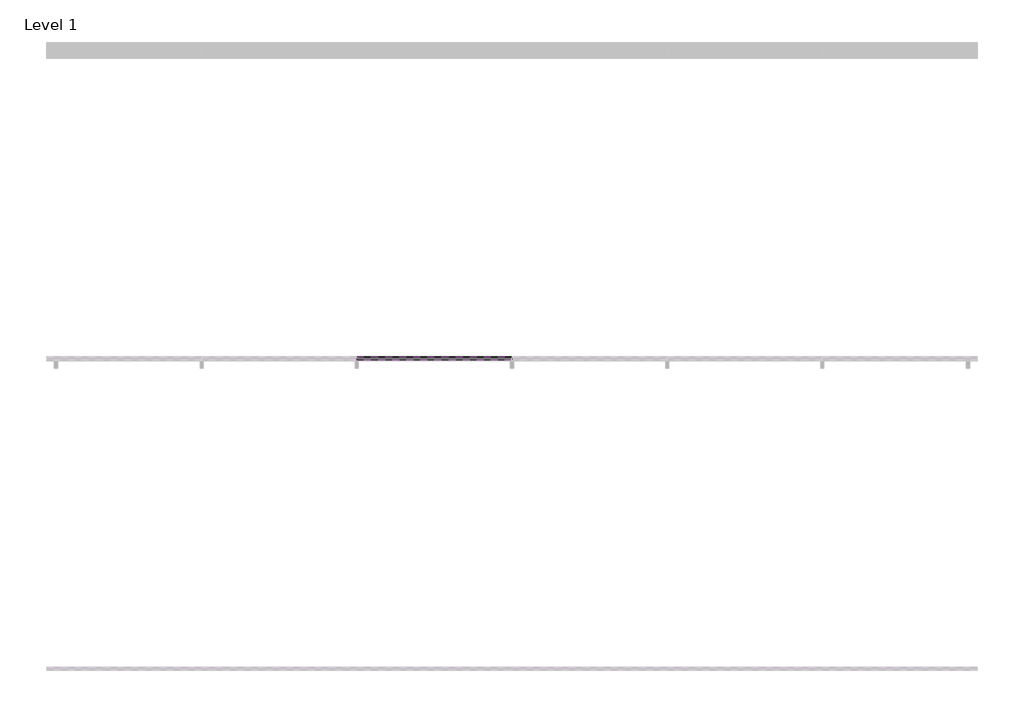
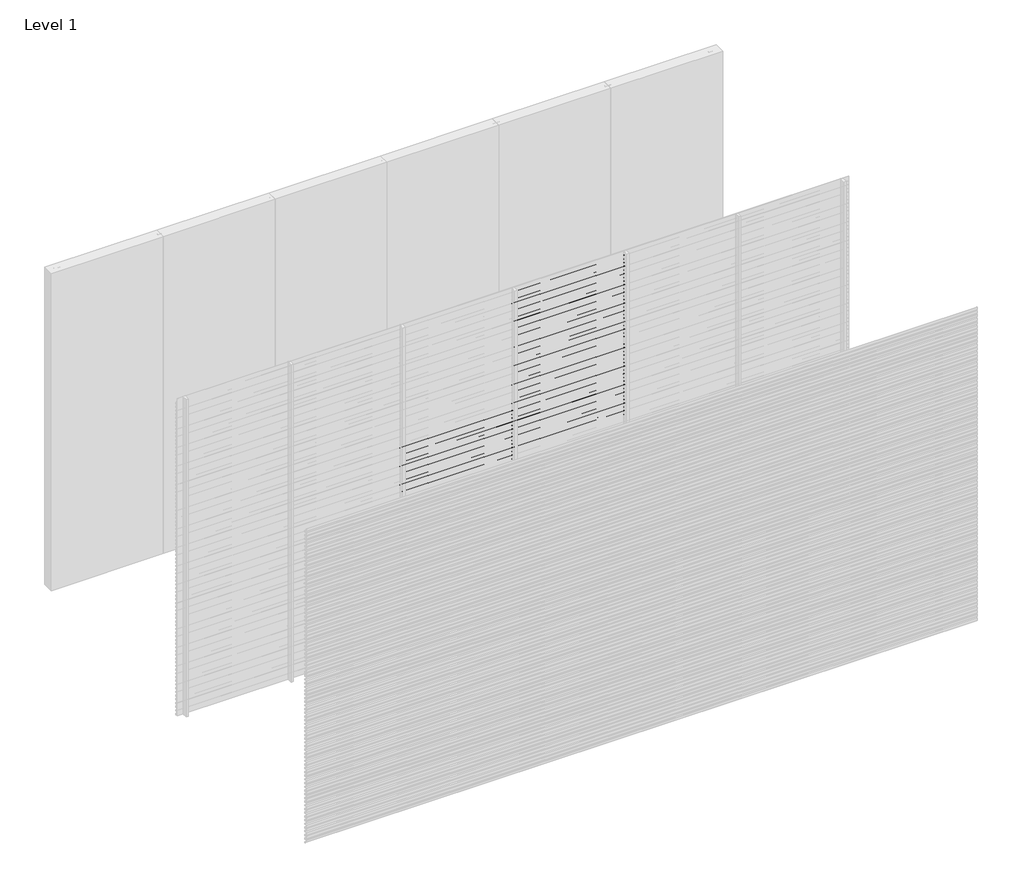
# One storey, part 17 of 25: 97 proxies.
"""IFC4 building model written with IfcOpenShell, lengths in millimetres."""

from ifc_helpers import new_model, si_unit, frame, origin, place, context, project, spatial, polyline, outline, extrude, element, save

model = new_model("IFC4")

# Units and contexts
model_context = context("Model", 3, world=origin())
ifc_project = project(units=[si_unit("LENGTHUNIT", "METRE", prefix="MILLI")], contexts=[model_context])

# Site, building, storey
site = spatial("IfcSite", under=ifc_project)
building = spatial("IfcBuilding", under=site)
storey = spatial("IfcBuildingStorey", under=building, Name="Level 1", Elevation=0.0)

# Proxies
placement = place(None, origin())
element("IfcBuildingElementProxy", 1, Name="Wall Sweeps", at=placement, inside=storey, context=model_context, shape_type="SweptSolid", body=[
    extrude(outline(polyline([(-5995.0, 1855.0), (-5995.0, 1843.942893), (-5976.0, 1828.0), (-5976.0, 1815.0), (-5997.0, 1832.6210923), (-5997.0, 1855.0), (-5995.0, 1855.0)])), frame((2000.0, 0.0, 0.0), z_axis=(1.0, 0.0, 0.0), x_axis=(0.0, 1.0, 0.0)), (0.0, 0.0, 1.0), 1000.0),
])
element("IfcBuildingElementProxy", 2, Name="Wall Sweeps", at=placement, inside=storey, context=model_context, shape_type="SweptSolid", body=[
    extrude(outline(polyline([(-5995.0, 1820.0), (-5995.0, 1808.942893), (-5976.0, 1793.0), (-5976.0, 1780.0), (-5997.0, 1797.6210923), (-5997.0, 1820.0), (-5995.0, 1820.0)])), frame((2000.0, 0.0, 0.0), z_axis=(1.0, 0.0, 0.0), x_axis=(0.0, 1.0, 0.0)), (0.0, 0.0, 1.0), 1000.0),
])
element("IfcBuildingElementProxy", 3, Name="Wall Sweeps", at=placement, inside=storey, context=model_context, shape_type="SweptSolid", body=[
    extrude(outline(polyline([(-5995.0, 1785.0), (-5995.0, 1773.942893), (-5976.0, 1758.0), (-5976.0, 1745.0), (-5997.0, 1762.6210923), (-5997.0, 1785.0), (-5995.0, 1785.0)])), frame((2000.0, 0.0, 0.0), z_axis=(1.0, 0.0, 0.0), x_axis=(0.0, 1.0, 0.0)), (0.0, 0.0, 1.0), 1000.0),
])
element("IfcBuildingElementProxy", 4, Name="Wall Sweeps", at=placement, inside=storey, context=model_context, shape_type="SweptSolid", body=[
    extrude(outline(polyline([(-5995.0, 1750.0), (-5995.0, 1738.942893), (-5976.0, 1723.0), (-5976.0, 1710.0), (-5997.0, 1727.6210923), (-5997.0, 1750.0), (-5995.0, 1750.0)])), frame((2000.0, 0.0, 0.0), z_axis=(1.0, 0.0, 0.0), x_axis=(0.0, 1.0, 0.0)), (0.0, 0.0, 1.0), 1000.0),
])
element("IfcBuildingElementProxy", 5, Name="Wall Sweeps", at=placement, inside=storey, context=model_context, shape_type="SweptSolid", body=[
    extrude(outline(polyline([(-5995.0, 1715.0), (-5995.0, 1703.942893), (-5976.0, 1688.0), (-5976.0, 1675.0), (-5997.0, 1692.6210923), (-5997.0, 1715.0), (-5995.0, 1715.0)])), frame((2000.0, 0.0, 0.0), z_axis=(1.0, 0.0, 0.0), x_axis=(0.0, 1.0, 0.0)), (0.0, 0.0, 1.0), 1000.0),
])
element("IfcBuildingElementProxy", 6, Name="Wall Sweeps", at=placement, inside=storey, context=model_context, shape_type="SweptSolid", body=[
    extrude(outline(polyline([(-5995.0, 1680.0), (-5995.0, 1668.942893), (-5976.0, 1653.0), (-5976.0, 1640.0), (-5997.0, 1657.6210923), (-5997.0, 1680.0), (-5995.0, 1680.0)])), frame((2000.0, 0.0, 0.0), z_axis=(1.0, 0.0, 0.0), x_axis=(0.0, 1.0, 0.0)), (0.0, 0.0, 1.0), 1000.0),
])
element("IfcBuildingElementProxy", 7, Name="Wall Sweeps", at=placement, inside=storey, context=model_context, shape_type="SweptSolid", body=[
    extrude(outline(polyline([(-5995.0, 1645.0), (-5995.0, 1633.942893), (-5976.0, 1618.0), (-5976.0, 1605.0), (-5997.0, 1622.6210923), (-5997.0, 1645.0), (-5995.0, 1645.0)])), frame((2000.0, 0.0, 0.0), z_axis=(1.0, 0.0, 0.0), x_axis=(0.0, 1.0, 0.0)), (0.0, 0.0, 1.0), 1000.0),
])
element("IfcBuildingElementProxy", 8, Name="Wall Sweeps", at=placement, inside=storey, context=model_context, shape_type="SweptSolid", body=[
    extrude(outline(polyline([(-5995.0, 1610.0), (-5995.0, 1598.942893), (-5976.0, 1583.0), (-5976.0, 1570.0), (-5997.0, 1587.6210923), (-5997.0, 1610.0), (-5995.0, 1610.0)])), frame((2000.0, 0.0, 0.0), z_axis=(1.0, 0.0, 0.0), x_axis=(0.0, 1.0, 0.0)), (0.0, 0.0, 1.0), 1000.0),
])
element("IfcBuildingElementProxy", 9, Name="Wall Sweeps", at=placement, inside=storey, context=model_context, shape_type="SweptSolid", body=[
    extrude(outline(polyline([(-5995.0, 1575.0), (-5995.0, 1563.942893), (-5976.0, 1548.0), (-5976.0, 1535.0), (-5997.0, 1552.6210923), (-5997.0, 1575.0), (-5995.0, 1575.0)])), frame((2000.0, 0.0, 0.0), z_axis=(1.0, 0.0, 0.0), x_axis=(0.0, 1.0, 0.0)), (0.0, 0.0, 1.0), 1000.0),
])
element("IfcBuildingElementProxy", 10, Name="Wall Sweeps", at=placement, inside=storey, context=model_context, shape_type="SweptSolid", body=[
    extrude(outline(polyline([(-5995.0, 1540.0), (-5995.0, 1528.942893), (-5976.0, 1513.0), (-5976.0, 1500.0), (-5997.0, 1517.6210923), (-5997.0, 1540.0), (-5995.0, 1540.0)])), frame((2000.0, 0.0, 0.0), z_axis=(1.0, 0.0, 0.0), x_axis=(0.0, 1.0, 0.0)), (0.0, 0.0, 1.0), 1000.0),
])
element("IfcBuildingElementProxy", 11, Name="Wall Sweeps", at=placement, inside=storey, context=model_context, shape_type="SweptSolid", body=[
    extrude(outline(polyline([(-5995.0, 1505.0), (-5995.0, 1493.942893), (-5976.0, 1478.0), (-5976.0, 1465.0), (-5997.0, 1482.6210923), (-5997.0, 1505.0), (-5995.0, 1505.0)])), frame((2000.0, 0.0, 0.0), z_axis=(1.0, 0.0, 0.0), x_axis=(0.0, 1.0, 0.0)), (0.0, 0.0, 1.0), 1000.0),
])
element("IfcBuildingElementProxy", 12, Name="Wall Sweeps", at=placement, inside=storey, context=model_context, shape_type="SweptSolid", body=[
    extrude(outline(polyline([(-5995.0, 1470.0), (-5995.0, 1458.942893), (-5976.0, 1443.0), (-5976.0, 1430.0), (-5997.0, 1447.6210923), (-5997.0, 1470.0), (-5995.0, 1470.0)])), frame((2000.0, 0.0, 0.0), z_axis=(1.0, 0.0, 0.0), x_axis=(0.0, 1.0, 0.0)), (0.0, 0.0, 1.0), 1000.0),
])
element("IfcBuildingElementProxy", 13, Name="Wall Sweeps", at=placement, inside=storey, context=model_context, shape_type="SweptSolid", body=[
    extrude(outline(polyline([(-5995.0, 1435.0), (-5995.0, 1423.942893), (-5976.0, 1408.0), (-5976.0, 1395.0), (-5997.0, 1412.6210923), (-5997.0, 1435.0), (-5995.0, 1435.0)])), frame((2000.0, 0.0, 0.0), z_axis=(1.0, 0.0, 0.0), x_axis=(0.0, 1.0, 0.0)), (0.0, 0.0, 1.0), 1000.0),
])
element("IfcBuildingElementProxy", 14, Name="Wall Sweeps", at=placement, inside=storey, context=model_context, shape_type="SweptSolid", body=[
    extrude(outline(polyline([(-5995.0, 1400.0), (-5995.0, 1388.942893), (-5976.0, 1373.0), (-5976.0, 1360.0), (-5997.0, 1377.6210923), (-5997.0, 1400.0), (-5995.0, 1400.0)])), frame((2000.0, 0.0, 0.0), z_axis=(1.0, 0.0, 0.0), x_axis=(0.0, 1.0, 0.0)), (0.0, 0.0, 1.0), 1000.0),
])
element("IfcBuildingElementProxy", 15, Name="Wall Sweeps", at=placement, inside=storey, context=model_context, shape_type="SweptSolid", body=[
    extrude(outline(polyline([(-5995.0, 1365.0), (-5995.0, 1353.942893), (-5976.0, 1338.0), (-5976.0, 1325.0), (-5997.0, 1342.6210923), (-5997.0, 1365.0), (-5995.0, 1365.0)])), frame((2000.0, 0.0, 0.0), z_axis=(1.0, 0.0, 0.0), x_axis=(0.0, 1.0, 0.0)), (0.0, 0.0, 1.0), 1000.0),
])
element("IfcBuildingElementProxy", 16, Name="Wall Sweeps", at=placement, inside=storey, context=model_context, shape_type="SweptSolid", body=[
    extrude(outline(polyline([(-5995.0, 1330.0), (-5995.0, 1318.942893), (-5976.0, 1303.0), (-5976.0, 1290.0), (-5997.0, 1307.6210923), (-5997.0, 1330.0), (-5995.0, 1330.0)])), frame((2000.0, 0.0, 0.0), z_axis=(1.0, 0.0, 0.0), x_axis=(0.0, 1.0, 0.0)), (0.0, 0.0, 1.0), 1000.0),
])
element("IfcBuildingElementProxy", 17, Name="Wall Sweeps", at=placement, inside=storey, context=model_context, shape_type="SweptSolid", body=[
    extrude(outline(polyline([(-5995.0, 1295.0), (-5995.0, 1283.942893), (-5976.0, 1268.0), (-5976.0, 1255.0), (-5997.0, 1272.6210923), (-5997.0, 1295.0), (-5995.0, 1295.0)])), frame((2000.0, 0.0, 0.0), z_axis=(1.0, 0.0, 0.0), x_axis=(0.0, 1.0, 0.0)), (0.0, 0.0, 1.0), 1000.0),
])
element("IfcBuildingElementProxy", 18, Name="Wall Sweeps", at=placement, inside=storey, context=model_context, shape_type="SweptSolid", body=[
    extrude(outline(polyline([(-5995.0, 1260.0), (-5995.0, 1248.942893), (-5976.0, 1233.0), (-5976.0, 1220.0), (-5997.0, 1237.6210923), (-5997.0, 1260.0), (-5995.0, 1260.0)])), frame((2000.0, 0.0, 0.0), z_axis=(1.0, 0.0, 0.0), x_axis=(0.0, 1.0, 0.0)), (0.0, 0.0, 1.0), 1000.0),
])
element("IfcBuildingElementProxy", 19, Name="Wall Sweeps", at=placement, inside=storey, context=model_context, shape_type="SweptSolid", body=[
    extrude(outline(polyline([(-5995.0, 1225.0), (-5995.0, 1213.942893), (-5976.0, 1198.0), (-5976.0, 1185.0), (-5997.0, 1202.6210923), (-5997.0, 1225.0), (-5995.0, 1225.0)])), frame((2000.0, 0.0, 0.0), z_axis=(1.0, 0.0, 0.0), x_axis=(0.0, 1.0, 0.0)), (0.0, 0.0, 1.0), 1000.0),
])
element("IfcBuildingElementProxy", 20, Name="Wall Sweeps", at=placement, inside=storey, context=model_context, shape_type="SweptSolid", body=[
    extrude(outline(polyline([(-5995.0, 1190.0), (-5995.0, 1178.942893), (-5976.0, 1163.0), (-5976.0, 1150.0), (-5997.0, 1167.6210923), (-5997.0, 1190.0), (-5995.0, 1190.0)])), frame((2000.0, 0.0, 0.0), z_axis=(1.0, 0.0, 0.0), x_axis=(0.0, 1.0, 0.0)), (0.0, 0.0, 1.0), 1000.0),
])
element("IfcBuildingElementProxy", 21, Name="Wall Sweeps", at=placement, inside=storey, context=model_context, shape_type="SweptSolid", body=[
    extrude(outline(polyline([(-5995.0, 1155.0), (-5995.0, 1143.942893), (-5976.0, 1128.0), (-5976.0, 1115.0), (-5997.0, 1132.6210923), (-5997.0, 1155.0), (-5995.0, 1155.0)])), frame((2000.0, 0.0, 0.0), z_axis=(1.0, 0.0, 0.0), x_axis=(0.0, 1.0, 0.0)), (0.0, 0.0, 1.0), 1000.0),
])
element("IfcBuildingElementProxy", 22, Name="Wall Sweeps", at=placement, inside=storey, context=model_context, shape_type="SweptSolid", body=[
    extrude(outline(polyline([(-5995.0, 1120.0), (-5995.0, 1108.942893), (-5976.0, 1093.0), (-5976.0, 1080.0), (-5997.0, 1097.6210923), (-5997.0, 1120.0), (-5995.0, 1120.0)])), frame((2000.0, 0.0, 0.0), z_axis=(1.0, 0.0, 0.0), x_axis=(0.0, 1.0, 0.0)), (0.0, 0.0, 1.0), 1000.0),
])
element("IfcBuildingElementProxy", 23, Name="Wall Sweeps", at=placement, inside=storey, context=model_context, shape_type="SweptSolid", body=[
    extrude(outline(polyline([(-5995.0, 1085.0), (-5995.0, 1073.942893), (-5976.0, 1058.0), (-5976.0, 1045.0), (-5997.0, 1062.6210923), (-5997.0, 1085.0), (-5995.0, 1085.0)])), frame((2000.0, 0.0, 0.0), z_axis=(1.0, 0.0, 0.0), x_axis=(0.0, 1.0, 0.0)), (0.0, 0.0, 1.0), 1000.0),
])
element("IfcBuildingElementProxy", 24, Name="Wall Sweeps", at=placement, inside=storey, context=model_context, shape_type="SweptSolid", body=[
    extrude(outline(polyline([(-5995.0, 1050.0), (-5995.0, 1038.942893), (-5976.0, 1023.0), (-5976.0, 1010.0), (-5997.0, 1027.6210923), (-5997.0, 1050.0), (-5995.0, 1050.0)])), frame((2000.0, 0.0, 0.0), z_axis=(1.0, 0.0, 0.0), x_axis=(0.0, 1.0, 0.0)), (0.0, 0.0, 1.0), 1000.0),
])
element("IfcBuildingElementProxy", 25, Name="Wall Sweeps", at=placement, inside=storey, context=model_context, shape_type="SweptSolid", body=[
    extrude(outline(polyline([(-5995.0, 1015.0), (-5995.0, 1003.942893), (-5976.0, 988.0), (-5976.0, 975.0), (-5997.0, 992.6210923), (-5997.0, 1015.0), (-5995.0, 1015.0)])), frame((2000.0, 0.0, 0.0), z_axis=(1.0, 0.0, 0.0), x_axis=(0.0, 1.0, 0.0)), (0.0, 0.0, 1.0), 1000.0),
])
element("IfcBuildingElementProxy", 26, Name="Wall Sweeps", at=placement, inside=storey, context=model_context, shape_type="SweptSolid", body=[
    extrude(outline(polyline([(-5995.0, 980.0), (-5995.0, 968.942893), (-5976.0, 953.0), (-5976.0, 940.0), (-5997.0, 957.6210923), (-5997.0, 980.0), (-5995.0, 980.0)])), frame((2000.0, 0.0, 0.0), z_axis=(1.0, 0.0, 0.0), x_axis=(0.0, 1.0, 0.0)), (0.0, 0.0, 1.0), 1000.0),
])
element("IfcBuildingElementProxy", 27, Name="Wall Sweeps", at=placement, inside=storey, context=model_context, shape_type="SweptSolid", body=[
    extrude(outline(polyline([(-5995.0, 945.0), (-5995.0, 933.942893), (-5976.0, 918.0), (-5976.0, 905.0), (-5997.0, 922.6210923), (-5997.0, 945.0), (-5995.0, 945.0)])), frame((2000.0, 0.0, 0.0), z_axis=(1.0, 0.0, 0.0), x_axis=(0.0, 1.0, 0.0)), (0.0, 0.0, 1.0), 1000.0),
])
element("IfcBuildingElementProxy", 28, Name="Wall Sweeps", at=placement, inside=storey, context=model_context, shape_type="SweptSolid", body=[
    extrude(outline(polyline([(-5995.0, 910.0), (-5995.0, 898.942893), (-5976.0, 883.0), (-5976.0, 870.0), (-5997.0, 887.6210923), (-5997.0, 910.0), (-5995.0, 910.0)])), frame((2000.0, 0.0, 0.0), z_axis=(1.0, 0.0, 0.0), x_axis=(0.0, 1.0, 0.0)), (0.0, 0.0, 1.0), 1000.0),
])
element("IfcBuildingElementProxy", 29, Name="Wall Sweeps", at=placement, inside=storey, context=model_context, shape_type="SweptSolid", body=[
    extrude(outline(polyline([(-5995.0, 875.0), (-5995.0, 863.942893), (-5976.0, 848.0), (-5976.0, 835.0), (-5997.0, 852.6210923), (-5997.0, 875.0), (-5995.0, 875.0)])), frame((2000.0, 0.0, 0.0), z_axis=(1.0, 0.0, 0.0), x_axis=(0.0, 1.0, 0.0)), (0.0, 0.0, 1.0), 1000.0),
])
element("IfcBuildingElementProxy", 30, Name="Wall Sweeps", at=placement, inside=storey, context=model_context, shape_type="SweptSolid", body=[
    extrude(outline(polyline([(-5995.0, 840.0), (-5995.0, 828.942893), (-5976.0, 813.0), (-5976.0, 800.0), (-5997.0, 817.6210923), (-5997.0, 840.0), (-5995.0, 840.0)])), frame((2000.0, 0.0, 0.0), z_axis=(1.0, 0.0, 0.0), x_axis=(0.0, 1.0, 0.0)), (0.0, 0.0, 1.0), 1000.0),
])
element("IfcBuildingElementProxy", 31, Name="Wall Sweeps", at=placement, inside=storey, context=model_context, shape_type="SweptSolid", body=[
    extrude(outline(polyline([(-5995.0, 805.0), (-5995.0, 793.942893), (-5976.0, 778.0), (-5976.0, 765.0), (-5997.0, 782.6210923), (-5997.0, 805.0), (-5995.0, 805.0)])), frame((2000.0, 0.0, 0.0), z_axis=(1.0, 0.0, 0.0), x_axis=(0.0, 1.0, 0.0)), (0.0, 0.0, 1.0), 1000.0),
])
element("IfcBuildingElementProxy", 32, Name="Wall Sweeps", at=placement, inside=storey, context=model_context, shape_type="SweptSolid", body=[
    extrude(outline(polyline([(-5995.0, 770.0), (-5995.0, 758.942893), (-5976.0, 743.0), (-5976.0, 730.0), (-5997.0, 747.6210923), (-5997.0, 770.0), (-5995.0, 770.0)])), frame((2000.0, 0.0, 0.0), z_axis=(1.0, 0.0, 0.0), x_axis=(0.0, 1.0, 0.0)), (0.0, 0.0, 1.0), 1000.0),
])
element("IfcBuildingElementProxy", 33, Name="Wall Sweeps", at=placement, inside=storey, context=model_context, shape_type="SweptSolid", body=[
    extrude(outline(polyline([(-5995.0, 735.0), (-5995.0, 723.942893), (-5976.0, 708.0), (-5976.0, 695.0), (-5997.0, 712.6210923), (-5997.0, 735.0), (-5995.0, 735.0)])), frame((2000.0, 0.0, 0.0), z_axis=(1.0, 0.0, 0.0), x_axis=(0.0, 1.0, 0.0)), (0.0, 0.0, 1.0), 1000.0),
])
element("IfcBuildingElementProxy", 34, Name="Wall Sweeps", at=placement, inside=storey, context=model_context, shape_type="SweptSolid", body=[
    extrude(outline(polyline([(-5995.0, 700.0), (-5995.0, 688.942893), (-5976.0, 673.0), (-5976.0, 660.0), (-5997.0, 677.6210923), (-5997.0, 700.0), (-5995.0, 700.0)])), frame((2000.0, 0.0, 0.0), z_axis=(1.0, 0.0, 0.0), x_axis=(0.0, 1.0, 0.0)), (0.0, 0.0, 1.0), 1000.0),
])
element("IfcBuildingElementProxy", 35, Name="Wall Sweeps", at=placement, inside=storey, context=model_context, shape_type="SweptSolid", body=[
    extrude(outline(polyline([(-5995.0, 665.0), (-5995.0, 653.942893), (-5976.0, 638.0), (-5976.0, 625.0), (-5997.0, 642.6210923), (-5997.0, 665.0), (-5995.0, 665.0)])), frame((2000.0, 0.0, 0.0), z_axis=(1.0, 0.0, 0.0), x_axis=(0.0, 1.0, 0.0)), (0.0, 0.0, 1.0), 1000.0),
])
element("IfcBuildingElementProxy", 36, Name="Wall Sweeps", at=placement, inside=storey, context=model_context, shape_type="SweptSolid", body=[
    extrude(outline(polyline([(-5995.0, 630.0), (-5995.0, 618.942893), (-5976.0, 603.0), (-5976.0, 590.0), (-5997.0, 607.6210923), (-5997.0, 630.0), (-5995.0, 630.0)])), frame((2000.0, 0.0, 0.0), z_axis=(1.0, 0.0, 0.0), x_axis=(0.0, 1.0, 0.0)), (0.0, 0.0, 1.0), 1000.0),
])
element("IfcBuildingElementProxy", 37, Name="Wall Sweeps", at=placement, inside=storey, context=model_context, shape_type="SweptSolid", body=[
    extrude(outline(polyline([(-5995.0, 595.0), (-5995.0, 583.942893), (-5976.0, 568.0), (-5976.0, 555.0), (-5997.0, 572.6210923), (-5997.0, 595.0), (-5995.0, 595.0)])), frame((2000.0, 0.0, 0.0), z_axis=(1.0, 0.0, 0.0), x_axis=(0.0, 1.0, 0.0)), (0.0, 0.0, 1.0), 1000.0),
])
element("IfcBuildingElementProxy", 38, Name="Wall Sweeps", at=placement, inside=storey, context=model_context, shape_type="SweptSolid", body=[
    extrude(outline(polyline([(-5995.0, 560.0), (-5995.0, 548.942893), (-5976.0, 533.0), (-5976.0, 520.0), (-5997.0, 537.6210923), (-5997.0, 560.0), (-5995.0, 560.0)])), frame((2000.0, 0.0, 0.0), z_axis=(1.0, 0.0, 0.0), x_axis=(0.0, 1.0, 0.0)), (0.0, 0.0, 1.0), 1000.0),
])
element("IfcBuildingElementProxy", 39, Name="Wall Sweeps", at=placement, inside=storey, context=model_context, shape_type="SweptSolid", body=[
    extrude(outline(polyline([(-5995.0, 525.0), (-5995.0, 513.942893), (-5976.0, 498.0), (-5976.0, 485.0), (-5997.0, 502.6210923), (-5997.0, 525.0), (-5995.0, 525.0)])), frame((2000.0, 0.0, 0.0), z_axis=(1.0, 0.0, 0.0), x_axis=(0.0, 1.0, 0.0)), (0.0, 0.0, 1.0), 1000.0),
])
element("IfcBuildingElementProxy", 40, Name="Wall Sweeps", at=placement, inside=storey, context=model_context, shape_type="SweptSolid", body=[
    extrude(outline(polyline([(-5995.0, 490.0), (-5995.0, 478.942893), (-5976.0, 463.0), (-5976.0, 450.0), (-5997.0, 467.6210923), (-5997.0, 490.0), (-5995.0, 490.0)])), frame((2000.0, 0.0, 0.0), z_axis=(1.0, 0.0, 0.0), x_axis=(0.0, 1.0, 0.0)), (0.0, 0.0, 1.0), 1000.0),
])
element("IfcBuildingElementProxy", 41, Name="Wall Sweeps", at=placement, inside=storey, context=model_context, shape_type="SweptSolid", body=[
    extrude(outline(polyline([(-5995.0, 455.0), (-5995.0, 443.942893), (-5976.0, 428.0), (-5976.0, 415.0), (-5997.0, 432.6210923), (-5997.0, 455.0), (-5995.0, 455.0)])), frame((2000.0, 0.0, 0.0), z_axis=(1.0, 0.0, 0.0), x_axis=(0.0, 1.0, 0.0)), (0.0, 0.0, 1.0), 1000.0),
])
element("IfcBuildingElementProxy", 42, Name="Wall Sweeps", at=placement, inside=storey, context=model_context, shape_type="SweptSolid", body=[
    extrude(outline(polyline([(-5995.0, 420.0), (-5995.0, 408.942893), (-5976.0, 393.0), (-5976.0, 380.0), (-5997.0, 397.6210923), (-5997.0, 420.0), (-5995.0, 420.0)])), frame((2000.0, 0.0, 0.0), z_axis=(1.0, 0.0, 0.0), x_axis=(0.0, 1.0, 0.0)), (0.0, 0.0, 1.0), 1000.0),
])
element("IfcBuildingElementProxy", 43, Name="Wall Sweeps", at=placement, inside=storey, context=model_context, shape_type="SweptSolid", body=[
    extrude(outline(polyline([(-5995.0, 385.0), (-5995.0, 373.942893), (-5976.0, 358.0), (-5976.0, 345.0), (-5997.0, 362.6210923), (-5997.0, 385.0), (-5995.0, 385.0)])), frame((2000.0, 0.0, 0.0), z_axis=(1.0, 0.0, 0.0), x_axis=(0.0, 1.0, 0.0)), (0.0, 0.0, 1.0), 1000.0),
])
element("IfcBuildingElementProxy", 44, Name="Wall Sweeps", at=placement, inside=storey, context=model_context, shape_type="SweptSolid", body=[
    extrude(outline(polyline([(-5995.0, 350.0), (-5995.0, 338.942893), (-5976.0, 323.0), (-5976.0, 310.0), (-5997.0, 327.6210923), (-5997.0, 350.0), (-5995.0, 350.0)])), frame((2000.0, 0.0, 0.0), z_axis=(1.0, 0.0, 0.0), x_axis=(0.0, 1.0, 0.0)), (0.0, 0.0, 1.0), 1000.0),
])
element("IfcBuildingElementProxy", 45, Name="Wall Sweeps", at=placement, inside=storey, context=model_context, shape_type="SweptSolid", body=[
    extrude(outline(polyline([(-5995.0, 315.0), (-5995.0, 303.942893), (-5976.0, 288.0), (-5976.0, 275.0), (-5997.0, 292.6210923), (-5997.0, 315.0), (-5995.0, 315.0)])), frame((2000.0, 0.0, 0.0), z_axis=(1.0, 0.0, 0.0), x_axis=(0.0, 1.0, 0.0)), (0.0, 0.0, 1.0), 1000.0),
])
element("IfcBuildingElementProxy", 46, Name="Wall Sweeps", at=placement, inside=storey, context=model_context, shape_type="SweptSolid", body=[
    extrude(outline(polyline([(-5995.0, 280.0), (-5995.0, 268.942893), (-5976.0, 253.0), (-5976.0, 240.0), (-5997.0, 257.6210923), (-5997.0, 280.0), (-5995.0, 280.0)])), frame((2000.0, 0.0, 0.0), z_axis=(1.0, 0.0, 0.0), x_axis=(0.0, 1.0, 0.0)), (0.0, 0.0, 1.0), 1000.0),
])
element("IfcBuildingElementProxy", 47, Name="Wall Sweeps", at=placement, inside=storey, context=model_context, shape_type="SweptSolid", body=[
    extrude(outline(polyline([(-5995.0, 245.0), (-5995.0, 233.942893), (-5976.0, 218.0), (-5976.0, 205.0), (-5997.0, 222.6210923), (-5997.0, 245.0), (-5995.0, 245.0)])), frame((2000.0, 0.0, 0.0), z_axis=(1.0, 0.0, 0.0), x_axis=(0.0, 1.0, 0.0)), (0.0, 0.0, 1.0), 1000.0),
])
element("IfcBuildingElementProxy", 48, Name="Wall Sweeps", at=placement, inside=storey, context=model_context, shape_type="SweptSolid", body=[
    extrude(outline(polyline([(-5995.0, 210.0), (-5995.0, 198.942893), (-5976.0, 183.0), (-5976.0, 170.0), (-5997.0, 187.6210923), (-5997.0, 210.0), (-5995.0, 210.0)])), frame((2000.0, 0.0, 0.0), z_axis=(1.0, 0.0, 0.0), x_axis=(0.0, 1.0, 0.0)), (0.0, 0.0, 1.0), 1000.0),
])
element("IfcBuildingElementProxy", 49, Name="Wall Sweeps", at=placement, inside=storey, context=model_context, shape_type="SweptSolid", body=[
    extrude(outline(polyline([(-5995.0, 175.0), (-5995.0, 163.942893), (-5976.0, 148.0), (-5976.0, 135.0), (-5997.0, 152.6210923), (-5997.0, 175.0), (-5995.0, 175.0)])), frame((2000.0, 0.0, 0.0), z_axis=(1.0, 0.0, 0.0), x_axis=(0.0, 1.0, 0.0)), (0.0, 0.0, 1.0), 1000.0),
])
element("IfcBuildingElementProxy", 50, Name="Wall Sweeps", at=placement, inside=storey, context=model_context, shape_type="SweptSolid", body=[
    extrude(outline(polyline([(-5995.0, 140.0), (-5995.0, 128.942893), (-5976.0, 113.0), (-5976.0, 100.0), (-5997.0, 117.6210923), (-5997.0, 140.0), (-5995.0, 140.0)])), frame((2000.0, 0.0, 0.0), z_axis=(1.0, 0.0, 0.0), x_axis=(0.0, 1.0, 0.0)), (0.0, 0.0, 1.0), 1000.0),
])
element("IfcBuildingElementProxy", 51, Name="Wall Sweeps", at=placement, inside=storey, context=model_context, shape_type="SweptSolid", body=[
    extrude(outline(polyline([(-5995.0, 105.0), (-5995.0, 93.942893), (-5976.0, 78.0), (-5976.0, 65.0), (-5997.0, 82.6210923), (-5997.0, 105.0), (-5995.0, 105.0)])), frame((2000.0, 0.0, 0.0), z_axis=(1.0, 0.0, 0.0), x_axis=(0.0, 1.0, 0.0)), (0.0, 0.0, 1.0), 1000.0),
])
element("IfcBuildingElementProxy", 52, Name="Wall Sweeps", at=placement, inside=storey, context=model_context, shape_type="SweptSolid", body=[
    extrude(outline(polyline([(-5995.0, 70.0), (-5995.0, 58.942893), (-5976.0, 43.0), (-5976.0, 30.0), (-5997.0, 47.6210923), (-5997.0, 70.0), (-5995.0, 70.0)])), frame((2000.0, 0.0, 0.0), z_axis=(1.0, 0.0, 0.0), x_axis=(0.0, 1.0, 0.0)), (0.0, 0.0, 1.0), 1000.0),
])
element("IfcBuildingElementProxy", 53, Name="Wall Sweeps", at=placement, inside=storey, context=model_context, shape_type="SweptSolid", body=[
    extrude(outline(polyline([(-5995.0, 35.0), (-5995.0, 23.942893), (-5976.0, 8.0), (-5976.0, -5.0), (-5997.0, 12.6210923), (-5997.0, 35.0), (-5995.0, 35.0)])), frame((2000.0, 0.0, 0.0), z_axis=(1.0, 0.0, 0.0), x_axis=(0.0, 1.0, 0.0)), (0.0, 0.0, 1.0), 1000.0),
])
element("IfcBuildingElementProxy", 54, Name="Wall Sweeps", at=placement, inside=storey, context=model_context, shape_type="SweptSolid", body=[
    extrude(outline(polyline([(-5995.0, 2975.0), (-5995.0, 2963.942893), (-5976.0, 2948.0), (-5976.0, 2935.0), (-5997.0, 2952.6210923), (-5997.0, 2975.0), (-5995.0, 2975.0)])), frame((3000.0, 0.0, 0.0), z_axis=(1.0, 0.0, 0.0), x_axis=(0.0, 1.0, 0.0)), (0.0, 0.0, 1.0), 1000.0),
])
element("IfcBuildingElementProxy", 55, Name="Wall Sweeps", at=placement, inside=storey, context=model_context, shape_type="SweptSolid", body=[
    extrude(outline(polyline([(-5995.0, 2940.0), (-5995.0, 2928.942893), (-5976.0, 2913.0), (-5976.0, 2900.0), (-5997.0, 2917.6210923), (-5997.0, 2940.0), (-5995.0, 2940.0)])), frame((3000.0, 0.0, 0.0), z_axis=(1.0, 0.0, 0.0), x_axis=(0.0, 1.0, 0.0)), (0.0, 0.0, 1.0), 1000.0),
])
element("IfcBuildingElementProxy", 56, Name="Wall Sweeps", at=placement, inside=storey, context=model_context, shape_type="SweptSolid", body=[
    extrude(outline(polyline([(-5995.0, 2905.0), (-5995.0, 2893.942893), (-5976.0, 2878.0), (-5976.0, 2865.0), (-5997.0, 2882.6210923), (-5997.0, 2905.0), (-5995.0, 2905.0)])), frame((3000.0, 0.0, 0.0), z_axis=(1.0, 0.0, 0.0), x_axis=(0.0, 1.0, 0.0)), (0.0, 0.0, 1.0), 1000.0),
])
element("IfcBuildingElementProxy", 57, Name="Wall Sweeps", at=placement, inside=storey, context=model_context, shape_type="SweptSolid", body=[
    extrude(outline(polyline([(-5995.0, 2870.0), (-5995.0, 2858.942893), (-5976.0, 2843.0), (-5976.0, 2830.0), (-5997.0, 2847.6210923), (-5997.0, 2870.0), (-5995.0, 2870.0)])), frame((3000.0, 0.0, 0.0), z_axis=(1.0, 0.0, 0.0), x_axis=(0.0, 1.0, 0.0)), (0.0, 0.0, 1.0), 1000.0),
])
element("IfcBuildingElementProxy", 58, Name="Wall Sweeps", at=placement, inside=storey, context=model_context, shape_type="SweptSolid", body=[
    extrude(outline(polyline([(-5995.0, 2835.0), (-5995.0, 2823.942893), (-5976.0, 2808.0), (-5976.0, 2795.0), (-5997.0, 2812.6210923), (-5997.0, 2835.0), (-5995.0, 2835.0)])), frame((3000.0, 0.0, 0.0), z_axis=(1.0, 0.0, 0.0), x_axis=(0.0, 1.0, 0.0)), (0.0, 0.0, 1.0), 1000.0),
])
element("IfcBuildingElementProxy", 59, Name="Wall Sweeps", at=placement, inside=storey, context=model_context, shape_type="SweptSolid", body=[
    extrude(outline(polyline([(-5995.0, 2800.0), (-5995.0, 2788.942893), (-5976.0, 2773.0), (-5976.0, 2760.0), (-5997.0, 2777.6210923), (-5997.0, 2800.0), (-5995.0, 2800.0)])), frame((3000.0, 0.0, 0.0), z_axis=(1.0, 0.0, 0.0), x_axis=(0.0, 1.0, 0.0)), (0.0, 0.0, 1.0), 1000.0),
])
element("IfcBuildingElementProxy", 60, Name="Wall Sweeps", at=placement, inside=storey, context=model_context, shape_type="SweptSolid", body=[
    extrude(outline(polyline([(-5995.0, 2765.0), (-5995.0, 2753.942893), (-5976.0, 2738.0), (-5976.0, 2725.0), (-5997.0, 2742.6210923), (-5997.0, 2765.0), (-5995.0, 2765.0)])), frame((3000.0, 0.0, 0.0), z_axis=(1.0, 0.0, 0.0), x_axis=(0.0, 1.0, 0.0)), (0.0, 0.0, 1.0), 1000.0),
])
element("IfcBuildingElementProxy", 61, Name="Wall Sweeps", at=placement, inside=storey, context=model_context, shape_type="SweptSolid", body=[
    extrude(outline(polyline([(-5995.0, 2730.0), (-5995.0, 2718.942893), (-5976.0, 2703.0), (-5976.0, 2690.0), (-5997.0, 2707.6210923), (-5997.0, 2730.0), (-5995.0, 2730.0)])), frame((3000.0, 0.0, 0.0), z_axis=(1.0, 0.0, 0.0), x_axis=(0.0, 1.0, 0.0)), (0.0, 0.0, 1.0), 1000.0),
])
element("IfcBuildingElementProxy", 62, Name="Wall Sweeps", at=placement, inside=storey, context=model_context, shape_type="SweptSolid", body=[
    extrude(outline(polyline([(-5995.0, 2695.0), (-5995.0, 2683.942893), (-5976.0, 2668.0), (-5976.0, 2655.0), (-5997.0, 2672.6210923), (-5997.0, 2695.0), (-5995.0, 2695.0)])), frame((3000.0, 0.0, 0.0), z_axis=(1.0, 0.0, 0.0), x_axis=(0.0, 1.0, 0.0)), (0.0, 0.0, 1.0), 1000.0),
])
element("IfcBuildingElementProxy", 63, Name="Wall Sweeps", at=placement, inside=storey, context=model_context, shape_type="SweptSolid", body=[
    extrude(outline(polyline([(-5995.0, 2660.0), (-5995.0, 2648.942893), (-5976.0, 2633.0), (-5976.0, 2620.0), (-5997.0, 2637.6210923), (-5997.0, 2660.0), (-5995.0, 2660.0)])), frame((3000.0, 0.0, 0.0), z_axis=(1.0, 0.0, 0.0), x_axis=(0.0, 1.0, 0.0)), (0.0, 0.0, 1.0), 1000.0),
])
element("IfcBuildingElementProxy", 64, Name="Wall Sweeps", at=placement, inside=storey, context=model_context, shape_type="SweptSolid", body=[
    extrude(outline(polyline([(-5995.0, 2625.0), (-5995.0, 2613.942893), (-5976.0, 2598.0), (-5976.0, 2585.0), (-5997.0, 2602.6210923), (-5997.0, 2625.0), (-5995.0, 2625.0)])), frame((3000.0, 0.0, 0.0), z_axis=(1.0, 0.0, 0.0), x_axis=(0.0, 1.0, 0.0)), (0.0, 0.0, 1.0), 1000.0),
])
element("IfcBuildingElementProxy", 65, Name="Wall Sweeps", at=placement, inside=storey, context=model_context, shape_type="SweptSolid", body=[
    extrude(outline(polyline([(-5995.0, 2590.0), (-5995.0, 2578.942893), (-5976.0, 2563.0), (-5976.0, 2550.0), (-5997.0, 2567.6210923), (-5997.0, 2590.0), (-5995.0, 2590.0)])), frame((3000.0, 0.0, 0.0), z_axis=(1.0, 0.0, 0.0), x_axis=(0.0, 1.0, 0.0)), (0.0, 0.0, 1.0), 1000.0),
])
element("IfcBuildingElementProxy", 66, Name="Wall Sweeps", at=placement, inside=storey, context=model_context, shape_type="SweptSolid", body=[
    extrude(outline(polyline([(-5995.0, 2555.0), (-5995.0, 2543.942893), (-5976.0, 2528.0), (-5976.0, 2515.0), (-5997.0, 2532.6210923), (-5997.0, 2555.0), (-5995.0, 2555.0)])), frame((3000.0, 0.0, 0.0), z_axis=(1.0, 0.0, 0.0), x_axis=(0.0, 1.0, 0.0)), (0.0, 0.0, 1.0), 1000.0),
])
element("IfcBuildingElementProxy", 67, Name="Wall Sweeps", at=placement, inside=storey, context=model_context, shape_type="SweptSolid", body=[
    extrude(outline(polyline([(-5995.0, 2520.0), (-5995.0, 2508.942893), (-5976.0, 2493.0), (-5976.0, 2480.0), (-5997.0, 2497.6210923), (-5997.0, 2520.0), (-5995.0, 2520.0)])), frame((3000.0, 0.0, 0.0), z_axis=(1.0, 0.0, 0.0), x_axis=(0.0, 1.0, 0.0)), (0.0, 0.0, 1.0), 1000.0),
])
element("IfcBuildingElementProxy", 68, Name="Wall Sweeps", at=placement, inside=storey, context=model_context, shape_type="SweptSolid", body=[
    extrude(outline(polyline([(-5995.0, 2485.0), (-5995.0, 2473.942893), (-5976.0, 2458.0), (-5976.0, 2445.0), (-5997.0, 2462.6210923), (-5997.0, 2485.0), (-5995.0, 2485.0)])), frame((3000.0, 0.0, 0.0), z_axis=(1.0, 0.0, 0.0), x_axis=(0.0, 1.0, 0.0)), (0.0, 0.0, 1.0), 1000.0),
])
element("IfcBuildingElementProxy", 69, Name="Wall Sweeps", at=placement, inside=storey, context=model_context, shape_type="SweptSolid", body=[
    extrude(outline(polyline([(-5995.0, 2450.0), (-5995.0, 2438.942893), (-5976.0, 2423.0), (-5976.0, 2410.0), (-5997.0, 2427.6210923), (-5997.0, 2450.0), (-5995.0, 2450.0)])), frame((3000.0, 0.0, 0.0), z_axis=(1.0, 0.0, 0.0), x_axis=(0.0, 1.0, 0.0)), (0.0, 0.0, 1.0), 1000.0),
])
element("IfcBuildingElementProxy", 70, Name="Wall Sweeps", at=placement, inside=storey, context=model_context, shape_type="SweptSolid", body=[
    extrude(outline(polyline([(-5995.0, 2415.0), (-5995.0, 2403.942893), (-5976.0, 2388.0), (-5976.0, 2375.0), (-5997.0, 2392.6210923), (-5997.0, 2415.0), (-5995.0, 2415.0)])), frame((3000.0, 0.0, 0.0), z_axis=(1.0, 0.0, 0.0), x_axis=(0.0, 1.0, 0.0)), (0.0, 0.0, 1.0), 1000.0),
])
element("IfcBuildingElementProxy", 71, Name="Wall Sweeps", at=placement, inside=storey, context=model_context, shape_type="SweptSolid", body=[
    extrude(outline(polyline([(-5995.0, 2380.0), (-5995.0, 2368.942893), (-5976.0, 2353.0), (-5976.0, 2340.0), (-5997.0, 2357.6210923), (-5997.0, 2380.0), (-5995.0, 2380.0)])), frame((3000.0, 0.0, 0.0), z_axis=(1.0, 0.0, 0.0), x_axis=(0.0, 1.0, 0.0)), (0.0, 0.0, 1.0), 1000.0),
])
element("IfcBuildingElementProxy", 72, Name="Wall Sweeps", at=placement, inside=storey, context=model_context, shape_type="SweptSolid", body=[
    extrude(outline(polyline([(-5995.0, 2345.0), (-5995.0, 2333.942893), (-5976.0, 2318.0), (-5976.0, 2305.0), (-5997.0, 2322.6210923), (-5997.0, 2345.0), (-5995.0, 2345.0)])), frame((3000.0, 0.0, 0.0), z_axis=(1.0, 0.0, 0.0), x_axis=(0.0, 1.0, 0.0)), (0.0, 0.0, 1.0), 1000.0),
])
element("IfcBuildingElementProxy", 73, Name="Wall Sweeps", at=placement, inside=storey, context=model_context, shape_type="SweptSolid", body=[
    extrude(outline(polyline([(-5995.0, 2310.0), (-5995.0, 2298.942893), (-5976.0, 2283.0), (-5976.0, 2270.0), (-5997.0, 2287.6210923), (-5997.0, 2310.0), (-5995.0, 2310.0)])), frame((3000.0, 0.0, 0.0), z_axis=(1.0, 0.0, 0.0), x_axis=(0.0, 1.0, 0.0)), (0.0, 0.0, 1.0), 1000.0),
])
element("IfcBuildingElementProxy", 74, Name="Wall Sweeps", at=placement, inside=storey, context=model_context, shape_type="SweptSolid", body=[
    extrude(outline(polyline([(-5995.0, 2275.0), (-5995.0, 2263.942893), (-5976.0, 2248.0), (-5976.0, 2235.0), (-5997.0, 2252.6210923), (-5997.0, 2275.0), (-5995.0, 2275.0)])), frame((3000.0, 0.0, 0.0), z_axis=(1.0, 0.0, 0.0), x_axis=(0.0, 1.0, 0.0)), (0.0, 0.0, 1.0), 1000.0),
])
element("IfcBuildingElementProxy", 75, Name="Wall Sweeps", at=placement, inside=storey, context=model_context, shape_type="SweptSolid", body=[
    extrude(outline(polyline([(-5995.0, 2240.0), (-5995.0, 2228.942893), (-5976.0, 2213.0), (-5976.0, 2200.0), (-5997.0, 2217.6210923), (-5997.0, 2240.0), (-5995.0, 2240.0)])), frame((3000.0, 0.0, 0.0), z_axis=(1.0, 0.0, 0.0), x_axis=(0.0, 1.0, 0.0)), (0.0, 0.0, 1.0), 1000.0),
])
element("IfcBuildingElementProxy", 76, Name="Wall Sweeps", at=placement, inside=storey, context=model_context, shape_type="SweptSolid", body=[
    extrude(outline(polyline([(-5995.0, 2205.0), (-5995.0, 2193.942893), (-5976.0, 2178.0), (-5976.0, 2165.0), (-5997.0, 2182.6210923), (-5997.0, 2205.0), (-5995.0, 2205.0)])), frame((3000.0, 0.0, 0.0), z_axis=(1.0, 0.0, 0.0), x_axis=(0.0, 1.0, 0.0)), (0.0, 0.0, 1.0), 1000.0),
])
element("IfcBuildingElementProxy", 77, Name="Wall Sweeps", at=placement, inside=storey, context=model_context, shape_type="SweptSolid", body=[
    extrude(outline(polyline([(-5995.0, 2170.0), (-5995.0, 2158.942893), (-5976.0, 2143.0), (-5976.0, 2130.0), (-5997.0, 2147.6210923), (-5997.0, 2170.0), (-5995.0, 2170.0)])), frame((3000.0, 0.0, 0.0), z_axis=(1.0, 0.0, 0.0), x_axis=(0.0, 1.0, 0.0)), (0.0, 0.0, 1.0), 1000.0),
])
element("IfcBuildingElementProxy", 78, Name="Wall Sweeps", at=placement, inside=storey, context=model_context, shape_type="SweptSolid", body=[
    extrude(outline(polyline([(-5995.0, 2135.0), (-5995.0, 2123.942893), (-5976.0, 2108.0), (-5976.0, 2095.0), (-5997.0, 2112.6210923), (-5997.0, 2135.0), (-5995.0, 2135.0)])), frame((3000.0, 0.0, 0.0), z_axis=(1.0, 0.0, 0.0), x_axis=(0.0, 1.0, 0.0)), (0.0, 0.0, 1.0), 1000.0),
])
element("IfcBuildingElementProxy", 79, Name="Wall Sweeps", at=placement, inside=storey, context=model_context, shape_type="SweptSolid", body=[
    extrude(outline(polyline([(-5995.0, 2100.0), (-5995.0, 2088.942893), (-5976.0, 2073.0), (-5976.0, 2060.0), (-5997.0, 2077.6210923), (-5997.0, 2100.0), (-5995.0, 2100.0)])), frame((3000.0, 0.0, 0.0), z_axis=(1.0, 0.0, 0.0), x_axis=(0.0, 1.0, 0.0)), (0.0, 0.0, 1.0), 1000.0),
])
element("IfcBuildingElementProxy", 80, Name="Wall Sweeps", at=placement, inside=storey, context=model_context, shape_type="SweptSolid", body=[
    extrude(outline(polyline([(-5995.0, 2065.0), (-5995.0, 2053.942893), (-5976.0, 2038.0), (-5976.0, 2025.0), (-5997.0, 2042.6210923), (-5997.0, 2065.0), (-5995.0, 2065.0)])), frame((3000.0, 0.0, 0.0), z_axis=(1.0, 0.0, 0.0), x_axis=(0.0, 1.0, 0.0)), (0.0, 0.0, 1.0), 1000.0),
])
element("IfcBuildingElementProxy", 81, Name="Wall Sweeps", at=placement, inside=storey, context=model_context, shape_type="SweptSolid", body=[
    extrude(outline(polyline([(-5995.0, 2030.0), (-5995.0, 2018.942893), (-5976.0, 2003.0), (-5976.0, 1990.0), (-5997.0, 2007.6210923), (-5997.0, 2030.0), (-5995.0, 2030.0)])), frame((3000.0, 0.0, 0.0), z_axis=(1.0, 0.0, 0.0), x_axis=(0.0, 1.0, 0.0)), (0.0, 0.0, 1.0), 1000.0),
])
element("IfcBuildingElementProxy", 82, Name="Wall Sweeps", at=placement, inside=storey, context=model_context, shape_type="SweptSolid", body=[
    extrude(outline(polyline([(-5995.0, 1995.0), (-5995.0, 1983.942893), (-5976.0, 1968.0), (-5976.0, 1955.0), (-5997.0, 1972.6210923), (-5997.0, 1995.0), (-5995.0, 1995.0)])), frame((3000.0, 0.0, 0.0), z_axis=(1.0, 0.0, 0.0), x_axis=(0.0, 1.0, 0.0)), (0.0, 0.0, 1.0), 1000.0),
])
element("IfcBuildingElementProxy", 83, Name="Wall Sweeps", at=placement, inside=storey, context=model_context, shape_type="SweptSolid", body=[
    extrude(outline(polyline([(-5995.0, 1960.0), (-5995.0, 1948.942893), (-5976.0, 1933.0), (-5976.0, 1920.0), (-5997.0, 1937.6210923), (-5997.0, 1960.0), (-5995.0, 1960.0)])), frame((3000.0, 0.0, 0.0), z_axis=(1.0, 0.0, 0.0), x_axis=(0.0, 1.0, 0.0)), (0.0, 0.0, 1.0), 1000.0),
])
element("IfcBuildingElementProxy", 84, Name="Wall Sweeps", at=placement, inside=storey, context=model_context, shape_type="SweptSolid", body=[
    extrude(outline(polyline([(-5995.0, 1925.0), (-5995.0, 1913.942893), (-5976.0, 1898.0), (-5976.0, 1885.0), (-5997.0, 1902.6210923), (-5997.0, 1925.0), (-5995.0, 1925.0)])), frame((3000.0, 0.0, 0.0), z_axis=(1.0, 0.0, 0.0), x_axis=(0.0, 1.0, 0.0)), (0.0, 0.0, 1.0), 1000.0),
])
element("IfcBuildingElementProxy", 85, Name="Wall Sweeps", at=placement, inside=storey, context=model_context, shape_type="SweptSolid", body=[
    extrude(outline(polyline([(-5995.0, 1890.0), (-5995.0, 1878.942893), (-5976.0, 1863.0), (-5976.0, 1850.0), (-5997.0, 1867.6210923), (-5997.0, 1890.0), (-5995.0, 1890.0)])), frame((3000.0, 0.0, 0.0), z_axis=(1.0, 0.0, 0.0), x_axis=(0.0, 1.0, 0.0)), (0.0, 0.0, 1.0), 1000.0),
])
element("IfcBuildingElementProxy", 86, Name="Wall Sweeps", at=placement, inside=storey, context=model_context, shape_type="SweptSolid", body=[
    extrude(outline(polyline([(-5995.0, 1855.0), (-5995.0, 1843.942893), (-5976.0, 1828.0), (-5976.0, 1815.0), (-5997.0, 1832.6210923), (-5997.0, 1855.0), (-5995.0, 1855.0)])), frame((3000.0, 0.0, 0.0), z_axis=(1.0, 0.0, 0.0), x_axis=(0.0, 1.0, 0.0)), (0.0, 0.0, 1.0), 1000.0),
])
element("IfcBuildingElementProxy", 87, Name="Wall Sweeps", at=placement, inside=storey, context=model_context, shape_type="SweptSolid", body=[
    extrude(outline(polyline([(-5995.0, 1820.0), (-5995.0, 1808.942893), (-5976.0, 1793.0), (-5976.0, 1780.0), (-5997.0, 1797.6210923), (-5997.0, 1820.0), (-5995.0, 1820.0)])), frame((3000.0, 0.0, 0.0), z_axis=(1.0, 0.0, 0.0), x_axis=(0.0, 1.0, 0.0)), (0.0, 0.0, 1.0), 1000.0),
])
element("IfcBuildingElementProxy", 88, Name="Wall Sweeps", at=placement, inside=storey, context=model_context, shape_type="SweptSolid", body=[
    extrude(outline(polyline([(-5995.0, 1785.0), (-5995.0, 1773.942893), (-5976.0, 1758.0), (-5976.0, 1745.0), (-5997.0, 1762.6210923), (-5997.0, 1785.0), (-5995.0, 1785.0)])), frame((3000.0, 0.0, 0.0), z_axis=(1.0, 0.0, 0.0), x_axis=(0.0, 1.0, 0.0)), (0.0, 0.0, 1.0), 1000.0),
])
element("IfcBuildingElementProxy", 89, Name="Wall Sweeps", at=placement, inside=storey, context=model_context, shape_type="SweptSolid", body=[
    extrude(outline(polyline([(-5995.0, 1750.0), (-5995.0, 1738.942893), (-5976.0, 1723.0), (-5976.0, 1710.0), (-5997.0, 1727.6210923), (-5997.0, 1750.0), (-5995.0, 1750.0)])), frame((3000.0, 0.0, 0.0), z_axis=(1.0, 0.0, 0.0), x_axis=(0.0, 1.0, 0.0)), (0.0, 0.0, 1.0), 1000.0),
])
element("IfcBuildingElementProxy", 90, Name="Wall Sweeps", at=placement, inside=storey, context=model_context, shape_type="SweptSolid", body=[
    extrude(outline(polyline([(-5995.0, 1715.0), (-5995.0, 1703.942893), (-5976.0, 1688.0), (-5976.0, 1675.0), (-5997.0, 1692.6210923), (-5997.0, 1715.0), (-5995.0, 1715.0)])), frame((3000.0, 0.0, 0.0), z_axis=(1.0, 0.0, 0.0), x_axis=(0.0, 1.0, 0.0)), (0.0, 0.0, 1.0), 1000.0),
])
element("IfcBuildingElementProxy", 91, Name="Wall Sweeps", at=placement, inside=storey, context=model_context, shape_type="SweptSolid", body=[
    extrude(outline(polyline([(-5995.0, 1680.0), (-5995.0, 1668.942893), (-5976.0, 1653.0), (-5976.0, 1640.0), (-5997.0, 1657.6210923), (-5997.0, 1680.0), (-5995.0, 1680.0)])), frame((3000.0, 0.0, 0.0), z_axis=(1.0, 0.0, 0.0), x_axis=(0.0, 1.0, 0.0)), (0.0, 0.0, 1.0), 1000.0),
])
element("IfcBuildingElementProxy", 92, Name="Wall Sweeps", at=placement, inside=storey, context=model_context, shape_type="SweptSolid", body=[
    extrude(outline(polyline([(-5995.0, 1645.0), (-5995.0, 1633.942893), (-5976.0, 1618.0), (-5976.0, 1605.0), (-5997.0, 1622.6210923), (-5997.0, 1645.0), (-5995.0, 1645.0)])), frame((3000.0, 0.0, 0.0), z_axis=(1.0, 0.0, 0.0), x_axis=(0.0, 1.0, 0.0)), (0.0, 0.0, 1.0), 1000.0),
])
element("IfcBuildingElementProxy", 93, Name="Wall Sweeps", at=placement, inside=storey, context=model_context, shape_type="SweptSolid", body=[
    extrude(outline(polyline([(-5995.0, 1610.0), (-5995.0, 1598.942893), (-5976.0, 1583.0), (-5976.0, 1570.0), (-5997.0, 1587.6210923), (-5997.0, 1610.0), (-5995.0, 1610.0)])), frame((3000.0, 0.0, 0.0), z_axis=(1.0, 0.0, 0.0), x_axis=(0.0, 1.0, 0.0)), (0.0, 0.0, 1.0), 1000.0),
])
element("IfcBuildingElementProxy", 94, Name="Wall Sweeps", at=placement, inside=storey, context=model_context, shape_type="SweptSolid", body=[
    extrude(outline(polyline([(-5995.0, 1575.0), (-5995.0, 1563.942893), (-5976.0, 1548.0), (-5976.0, 1535.0), (-5997.0, 1552.6210923), (-5997.0, 1575.0), (-5995.0, 1575.0)])), frame((3000.0, 0.0, 0.0), z_axis=(1.0, 0.0, 0.0), x_axis=(0.0, 1.0, 0.0)), (0.0, 0.0, 1.0), 1000.0),
])
element("IfcBuildingElementProxy", 95, Name="Wall Sweeps", at=placement, inside=storey, context=model_context, shape_type="SweptSolid", body=[
    extrude(outline(polyline([(-5995.0, 1540.0), (-5995.0, 1528.942893), (-5976.0, 1513.0), (-5976.0, 1500.0), (-5997.0, 1517.6210923), (-5997.0, 1540.0), (-5995.0, 1540.0)])), frame((3000.0, 0.0, 0.0), z_axis=(1.0, 0.0, 0.0), x_axis=(0.0, 1.0, 0.0)), (0.0, 0.0, 1.0), 1000.0),
])
element("IfcBuildingElementProxy", 96, Name="Wall Sweeps", at=placement, inside=storey, context=model_context, shape_type="SweptSolid", body=[
    extrude(outline(polyline([(-5995.0, 1505.0), (-5995.0, 1493.942893), (-5976.0, 1478.0), (-5976.0, 1465.0), (-5997.0, 1482.6210923), (-5997.0, 1505.0), (-5995.0, 1505.0)])), frame((3000.0, 0.0, 0.0), z_axis=(1.0, 0.0, 0.0), x_axis=(0.0, 1.0, 0.0)), (0.0, 0.0, 1.0), 1000.0),
])
element("IfcBuildingElementProxy", 97, Name="Wall Sweeps", at=placement, inside=storey, context=model_context, shape_type="SweptSolid", body=[
    extrude(outline(polyline([(-5995.0, 1470.0), (-5995.0, 1458.942893), (-5976.0, 1443.0), (-5976.0, 1430.0), (-5997.0, 1447.6210923), (-5997.0, 1470.0), (-5995.0, 1470.0)])), frame((3000.0, 0.0, 0.0), z_axis=(1.0, 0.0, 0.0), x_axis=(0.0, 1.0, 0.0)), (0.0, 0.0, 1.0), 1000.0),
])

save(model, "model.ifc")
